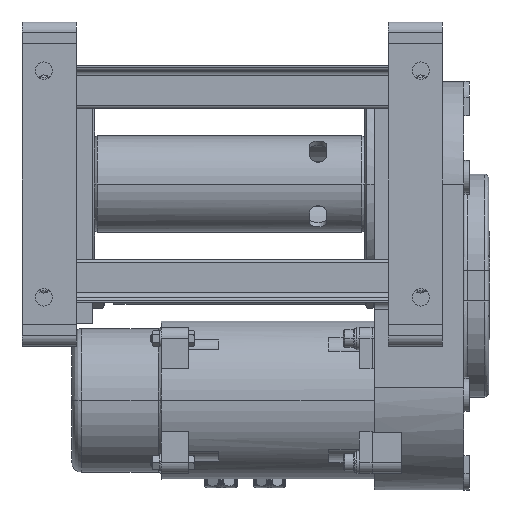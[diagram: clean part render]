
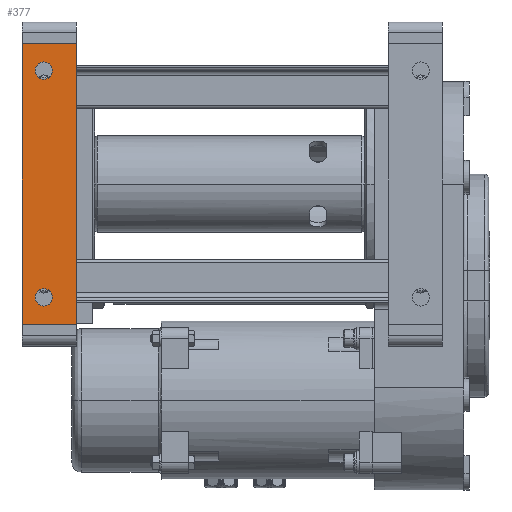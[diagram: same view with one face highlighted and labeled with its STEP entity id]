
A CAD part, front view. The second image highlights one B-rep face of the part: STEP entity #377.
In plain terms, the highlighted planar face has unit normal (0, -1, 0).
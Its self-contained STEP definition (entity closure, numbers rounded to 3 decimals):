
#377=ADVANCED_FACE('',(#3681,#3682,#3683),#3680,.F.);
#3680=PLANE('',#24348);
#3681=FACE_OUTER_BOUND('',#24349,.T.);
#3682=FACE_BOUND('',#24350,.T.);
#3683=FACE_BOUND('',#24351,.T.);
#24345=CARTESIAN_POINT('',(-1331.896,-1702.788,-1343.871));
#24346=DIRECTION('',(0.,1.,0.));
#24347=DIRECTION('',(0.,0.,-1.));
#24348=AXIS2_PLACEMENT_3D('',#24345,#24346,#24347);
#24349=EDGE_LOOP('',(#39109,#39110,#39111,#39112));
#24350=EDGE_LOOP('',(#39113,#39114));
#24351=EDGE_LOOP('',(#39115,#39116));
#39109=ORIENTED_EDGE('',*,*,#49651,.T.);
#39110=ORIENTED_EDGE('',*,*,#49652,.F.);
#39111=ORIENTED_EDGE('',*,*,#49653,.F.);
#39112=ORIENTED_EDGE('',*,*,#49654,.T.);
#39113=ORIENTED_EDGE('',*,*,#49655,.T.);
#39114=ORIENTED_EDGE('',*,*,#49656,.T.);
#39115=ORIENTED_EDGE('',*,*,#49657,.T.);
#39116=ORIENTED_EDGE('',*,*,#49658,.T.);
#49651=EDGE_CURVE('',#58032,#58033,#58034,.T.);
#49652=EDGE_CURVE('',#58040,#58033,#58041,.T.);
#49653=EDGE_CURVE('',#58047,#58040,#58048,.T.);
#49654=EDGE_CURVE('',#58047,#58032,#58054,.T.);
#49655=EDGE_CURVE('',#58060,#58061,#58062,.T.);
#49656=EDGE_CURVE('',#58061,#58060,#58068,.T.);
#49657=EDGE_CURVE('',#58074,#58075,#58076,.T.);
#49658=EDGE_CURVE('',#58075,#58074,#58082,.T.);
#58032=VERTEX_POINT('',#92479);
#58033=VERTEX_POINT('',#92480);
#58034=LINE('',#92481,#92482);
#58040=VERTEX_POINT('',#92484);
#58041=LINE('',#92485,#92486);
#58047=VERTEX_POINT('',#92488);
#58048=LINE('',#92489,#92490);
#58054=LINE('',#92492,#92493);
#58060=VERTEX_POINT('',#92495);
#58061=VERTEX_POINT('',#92496);
#58062=CIRCLE('',#92500,8.);
#58068=CIRCLE('',#92504,8.);
#58074=VERTEX_POINT('',#92505);
#58075=VERTEX_POINT('',#92506);
#58076=CIRCLE('',#92510,8.);
#58082=CIRCLE('',#92514,8.);
#92479=CARTESIAN_POINT('',(-1386.896,-1702.788,-1613.871));
#92480=CARTESIAN_POINT('',(-1336.896,-1702.788,-1613.871));
#92481=CARTESIAN_POINT('',(-1386.896,-1702.788,-1613.871));
#92482=VECTOR('',#92483,50.);
#92483=DIRECTION('',(1.,0.,0.));
#92484=CARTESIAN_POINT('',(-1336.896,-1702.788,-1353.871));
#92485=CARTESIAN_POINT('',(-1336.896,-1702.788,-1353.871));
#92486=VECTOR('',#92487,260.);
#92487=DIRECTION('',(0.,0.,-1.));
#92488=CARTESIAN_POINT('',(-1386.896,-1702.788,-1353.871));
#92489=CARTESIAN_POINT('',(-1386.896,-1702.788,-1353.871));
#92490=VECTOR('',#92491,50.);
#92491=DIRECTION('',(1.,0.,0.));
#92492=CARTESIAN_POINT('',(-1386.896,-1702.788,-1353.871));
#92493=VECTOR('',#92494,260.);
#92494=DIRECTION('',(0.,0.,-1.));
#92495=CARTESIAN_POINT('',(-1366.896,-1702.788,-1386.871));
#92496=CARTESIAN_POINT('',(-1366.896,-1702.788,-1370.871));
#92497=CARTESIAN_POINT('',(-1366.896,-1702.788,-1378.871));
#92498=DIRECTION('',(0.,1.,0.));
#92499=DIRECTION('',(0.,0.,-1.));
#92500=AXIS2_PLACEMENT_3D('',#92497,#92498,#92499);
#92501=CARTESIAN_POINT('',(-1366.896,-1702.788,-1378.871));
#92502=DIRECTION('',(0.,1.,0.));
#92503=DIRECTION('',(0.,0.,-1.));
#92504=AXIS2_PLACEMENT_3D('',#92501,#92502,#92503);
#92505=CARTESIAN_POINT('',(-1366.896,-1702.788,-1596.871));
#92506=CARTESIAN_POINT('',(-1366.896,-1702.788,-1580.871));
#92507=CARTESIAN_POINT('',(-1366.896,-1702.788,-1588.871));
#92508=DIRECTION('',(0.,1.,0.));
#92509=DIRECTION('',(0.,0.,-1.));
#92510=AXIS2_PLACEMENT_3D('',#92507,#92508,#92509);
#92511=CARTESIAN_POINT('',(-1366.896,-1702.788,-1588.871));
#92512=DIRECTION('',(0.,1.,0.));
#92513=DIRECTION('',(0.,0.,-1.));
#92514=AXIS2_PLACEMENT_3D('',#92511,#92512,#92513);
